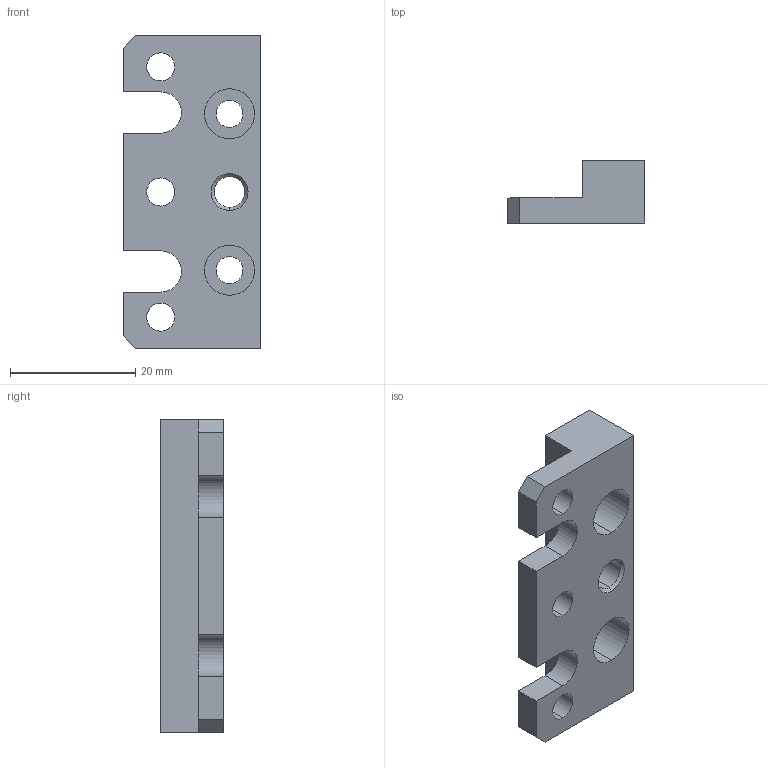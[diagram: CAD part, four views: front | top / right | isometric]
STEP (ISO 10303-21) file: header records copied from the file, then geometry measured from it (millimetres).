
FILE_DESCRIPTION (( 'STEP AP203' ), '1' );
FILE_NAME ('3BPVDOM.STEP', '2011-07-21T10:50:41', ( 'Darius' ), ( '' ), 'SwSTEP 2.0', 'SolidWorks 2003240', '' );
FILE_SCHEMA (( 'CONFIG_CONTROL_DESIGN' ));
Length unit declared in the file: millimetre
Products named in the file (1): 3BPVDOM
Bounding box: 22 x 10 x 50 mm (x, y, z)
Volume: 5721 mm3; surface area: 3950.9 mm2
Topology: 1 solids, 1 shells, 38 faces, 100 edges, 66 vertices
Faces by surface type: cylinder 18, plane 18, cone 2
Entity records: 1287 total; most frequent: DIRECTION 216, CARTESIAN_POINT 205, ORIENTED_EDGE 200, EDGE_CURVE 100, AXIS2_PLACEMENT_3D 77, VERTEX_POINT 66, VECTOR 62, LINE 62
